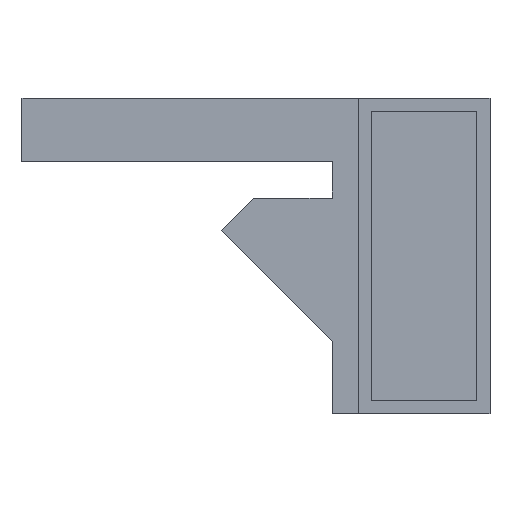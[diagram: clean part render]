
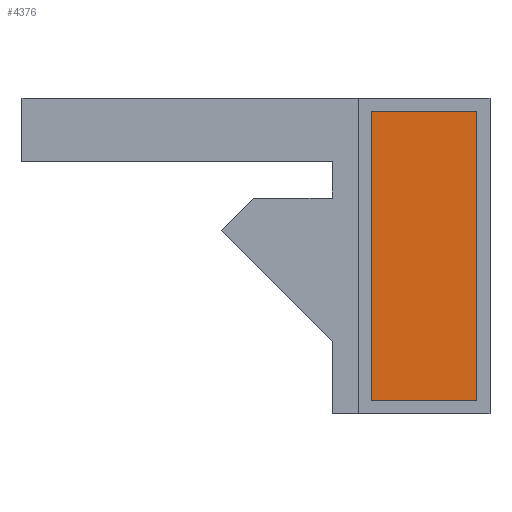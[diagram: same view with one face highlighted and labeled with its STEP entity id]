
A CAD part, front view. The second image highlights one B-rep face of the part: STEP entity #4376.
In plain terms, the highlighted planar face has unit normal (0, -1, 0).
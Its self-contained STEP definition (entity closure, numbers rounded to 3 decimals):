
#158 = PLANE('',#159);
#159 = AXIS2_PLACEMENT_3D('',#160,#161,#162);
#160 = CARTESIAN_POINT('',(71.,-10.,47.5));
#161 = DIRECTION('',(0.,0.,-1.));
#162 = DIRECTION('',(-1.,0.,0.));
#186 = PLANE('',#187);
#187 = AXIS2_PLACEMENT_3D('',#188,#189,#190);
#188 = CARTESIAN_POINT('',(71.,-10.,47.5));
#189 = DIRECTION('',(1.,0.,0.));
#190 = DIRECTION('',(0.,0.,-1.));
#214 = PLANE('',#215);
#215 = AXIS2_PLACEMENT_3D('',#216,#217,#218);
#216 = CARTESIAN_POINT('',(51.,-10.,-7.5));
#217 = DIRECTION('',(0.,0.,1.));
#218 = DIRECTION('',(1.,0.,0.));
#240 = PLANE('',#241);
#241 = AXIS2_PLACEMENT_3D('',#242,#243,#244);
#242 = CARTESIAN_POINT('',(51.,-10.,47.5));
#243 = DIRECTION('',(1.,0.,0.));
#244 = DIRECTION('',(0.,0.,-1.));
#1543 = VERTEX_POINT('',#1544);
#1544 = CARTESIAN_POINT('',(71.,-10.,47.5));
#1567 = VERTEX_POINT('',#1568);
#1568 = CARTESIAN_POINT('',(51.,-10.,47.5));
#1589 = EDGE_CURVE('',#1543,#1567,#1590,.T.);
#1590 = SURFACE_CURVE('',#1591,(#1595,#1602),.PCURVE_S1.);
#1591 = LINE('',#1592,#1593);
#1592 = CARTESIAN_POINT('',(71.,-10.,47.5));
#1593 = VECTOR('',#1594,1.);
#1594 = DIRECTION('',(-1.,0.,0.));
#1595 = PCURVE('',#158,#1596);
#1596 = DEFINITIONAL_REPRESENTATION('',(#1597),#1601);
#1597 = LINE('',#1598,#1599);
#1598 = CARTESIAN_POINT('',(-0.,0.));
#1599 = VECTOR('',#1600,1.);
#1600 = DIRECTION('',(1.,-0.));
#1601 = ( GEOMETRIC_REPRESENTATION_CONTEXT(2) 
PARAMETRIC_REPRESENTATION_CONTEXT() REPRESENTATION_CONTEXT('2D SPACE',''
  ) );
#1602 = PCURVE('',#1603,#1608);
#1603 = PLANE('',#1604);
#1604 = AXIS2_PLACEMENT_3D('',#1605,#1606,#1607);
#1605 = CARTESIAN_POINT('',(73.5,-10.,50.));
#1606 = DIRECTION('',(0.,1.,0.));
#1607 = DIRECTION('',(0.,0.,1.));
#1608 = DEFINITIONAL_REPRESENTATION('',(#1609),#1613);
#1609 = LINE('',#1610,#1611);
#1610 = CARTESIAN_POINT('',(-2.5,-2.5));
#1611 = VECTOR('',#1612,1.);
#1612 = DIRECTION('',(0.,-1.));
#1613 = ( GEOMETRIC_REPRESENTATION_CONTEXT(2) 
PARAMETRIC_REPRESENTATION_CONTEXT() REPRESENTATION_CONTEXT('2D SPACE',''
  ) );
#1621 = VERTEX_POINT('',#1622);
#1622 = CARTESIAN_POINT('',(71.,-10.,-7.5));
#1643 = EDGE_CURVE('',#1543,#1621,#1644,.T.);
#1644 = SURFACE_CURVE('',#1645,(#1649,#1656),.PCURVE_S1.);
#1645 = LINE('',#1646,#1647);
#1646 = CARTESIAN_POINT('',(71.,-10.,47.5));
#1647 = VECTOR('',#1648,1.);
#1648 = DIRECTION('',(0.,0.,-1.));
#1649 = PCURVE('',#186,#1650);
#1650 = DEFINITIONAL_REPRESENTATION('',(#1651),#1655);
#1651 = LINE('',#1652,#1653);
#1652 = CARTESIAN_POINT('',(-0.,0.));
#1653 = VECTOR('',#1654,1.);
#1654 = DIRECTION('',(1.,0.));
#1655 = ( GEOMETRIC_REPRESENTATION_CONTEXT(2) 
PARAMETRIC_REPRESENTATION_CONTEXT() REPRESENTATION_CONTEXT('2D SPACE',''
  ) );
#1656 = PCURVE('',#1603,#1657);
#1657 = DEFINITIONAL_REPRESENTATION('',(#1658),#1662);
#1658 = LINE('',#1659,#1660);
#1659 = CARTESIAN_POINT('',(-2.5,-2.5));
#1660 = VECTOR('',#1661,1.);
#1661 = DIRECTION('',(-1.,0.));
#1662 = ( GEOMETRIC_REPRESENTATION_CONTEXT(2) 
PARAMETRIC_REPRESENTATION_CONTEXT() REPRESENTATION_CONTEXT('2D SPACE',''
  ) );
#1840 = VERTEX_POINT('',#1841);
#1841 = CARTESIAN_POINT('',(51.,-10.,-7.5));
#1864 = EDGE_CURVE('',#1840,#1621,#1865,.T.);
#1865 = SURFACE_CURVE('',#1866,(#1870,#1877),.PCURVE_S1.);
#1866 = LINE('',#1867,#1868);
#1867 = CARTESIAN_POINT('',(51.,-10.,-7.5));
#1868 = VECTOR('',#1869,1.);
#1869 = DIRECTION('',(1.,0.,0.));
#1870 = PCURVE('',#214,#1871);
#1871 = DEFINITIONAL_REPRESENTATION('',(#1872),#1876);
#1872 = LINE('',#1873,#1874);
#1873 = CARTESIAN_POINT('',(-0.,0.));
#1874 = VECTOR('',#1875,1.);
#1875 = DIRECTION('',(1.,0.));
#1876 = ( GEOMETRIC_REPRESENTATION_CONTEXT(2) 
PARAMETRIC_REPRESENTATION_CONTEXT() REPRESENTATION_CONTEXT('2D SPACE',''
  ) );
#1877 = PCURVE('',#1603,#1878);
#1878 = DEFINITIONAL_REPRESENTATION('',(#1879),#1883);
#1879 = LINE('',#1880,#1881);
#1880 = CARTESIAN_POINT('',(-57.5,-22.5));
#1881 = VECTOR('',#1882,1.);
#1882 = DIRECTION('',(0.,1.));
#1883 = ( GEOMETRIC_REPRESENTATION_CONTEXT(2) 
PARAMETRIC_REPRESENTATION_CONTEXT() REPRESENTATION_CONTEXT('2D SPACE',''
  ) );
#1891 = EDGE_CURVE('',#1567,#1840,#1892,.T.);
#1892 = SURFACE_CURVE('',#1893,(#1897,#1904),.PCURVE_S1.);
#1893 = LINE('',#1894,#1895);
#1894 = CARTESIAN_POINT('',(51.,-10.,47.5));
#1895 = VECTOR('',#1896,1.);
#1896 = DIRECTION('',(0.,0.,-1.));
#1897 = PCURVE('',#240,#1898);
#1898 = DEFINITIONAL_REPRESENTATION('',(#1899),#1903);
#1899 = LINE('',#1900,#1901);
#1900 = CARTESIAN_POINT('',(0.,0.));
#1901 = VECTOR('',#1902,1.);
#1902 = DIRECTION('',(1.,0.));
#1903 = ( GEOMETRIC_REPRESENTATION_CONTEXT(2) 
PARAMETRIC_REPRESENTATION_CONTEXT() REPRESENTATION_CONTEXT('2D SPACE',''
  ) );
#1904 = PCURVE('',#1603,#1905);
#1905 = DEFINITIONAL_REPRESENTATION('',(#1906),#1910);
#1906 = LINE('',#1907,#1908);
#1907 = CARTESIAN_POINT('',(-2.5,-22.5));
#1908 = VECTOR('',#1909,1.);
#1909 = DIRECTION('',(-1.,0.));
#1910 = ( GEOMETRIC_REPRESENTATION_CONTEXT(2) 
PARAMETRIC_REPRESENTATION_CONTEXT() REPRESENTATION_CONTEXT('2D SPACE',''
  ) );
#4376 = ADVANCED_FACE('',(#4377),#1603,.F.);
#4377 = FACE_BOUND('',#4378,.F.);
#4378 = EDGE_LOOP('',(#4379,#4380,#4381,#4382));
#4379 = ORIENTED_EDGE('',*,*,#1589,.F.);
#4380 = ORIENTED_EDGE('',*,*,#1643,.T.);
#4381 = ORIENTED_EDGE('',*,*,#1864,.F.);
#4382 = ORIENTED_EDGE('',*,*,#1891,.F.);
